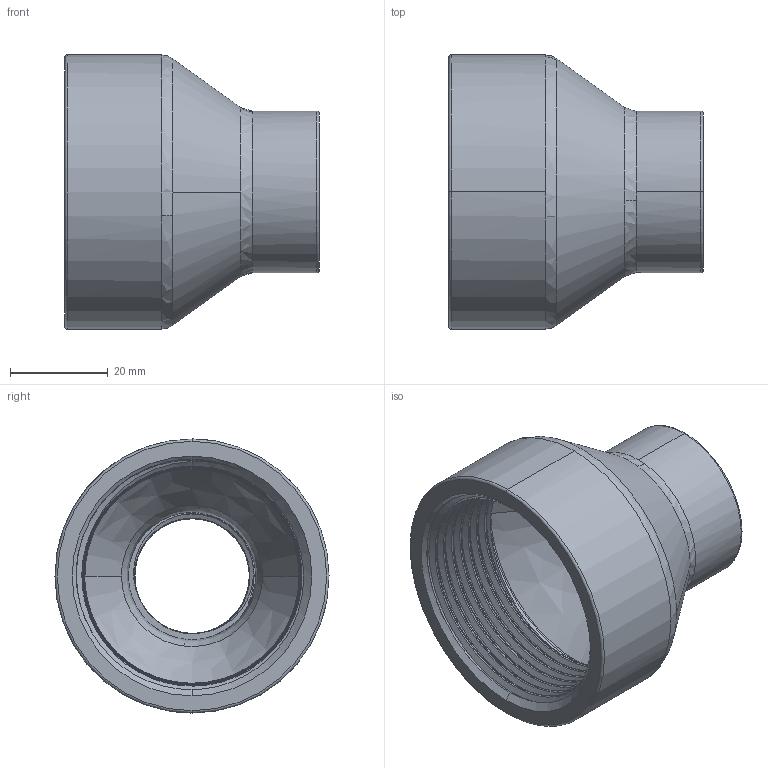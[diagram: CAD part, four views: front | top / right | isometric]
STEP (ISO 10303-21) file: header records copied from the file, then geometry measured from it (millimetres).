
FILE_DESCRIPTION (( 'STEP AP214' ), '1' );
FILE_NAME ('Different-diameter-socket-40Ax20A.STEP', '2022-03-15T06:24:01', ( 'ASIS User' ), ( 'ASIS User' ), 'SwSTEP 2.0', 'SolidWorks 2021', '' );
FILE_SCHEMA (( 'AUTOMOTIVE_DESIGN' ));
Length unit declared in the file: millimetre
Products named in the file (1): Different-diameter-socket-40Ax20A
Bounding box: 52 x 56 x 56 mm (x, y, z)
Volume: 30378.2 mm3; surface area: 18080.8 mm2
Topology: 1 solids, 1 shells, 72 faces, 580 edges, 512 vertices
Faces by surface type: cone 34, bspline 22, cylinder 8, torus 4, plane 4
Entity records: 20758 total; most frequent: CARTESIAN_POINT 17277, ORIENTED_EDGE 1160, EDGE_CURVE 580, VERTEX_POINT 512, B_SPLINE_CURVE_WITH_KNOTS 508, DIRECTION 206, AXIS2_PLACEMENT_3D 83, EDGE_LOOP 76
